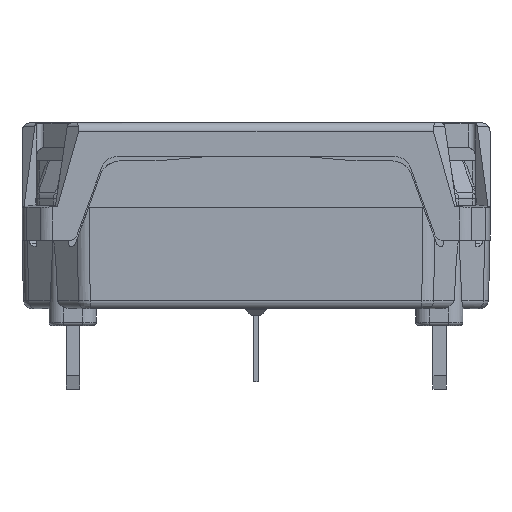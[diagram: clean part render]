
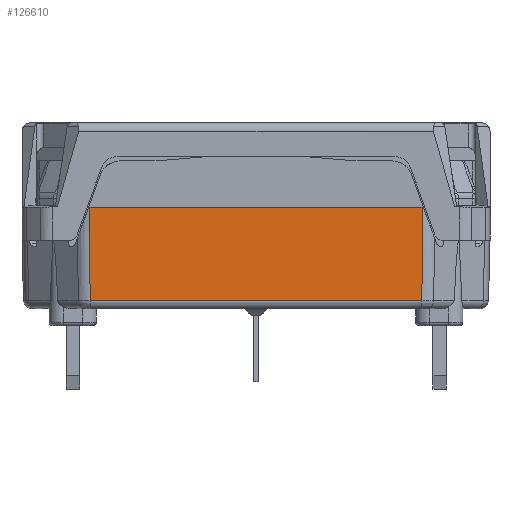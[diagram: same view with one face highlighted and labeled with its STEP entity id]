
A CAD part, front view. The second image highlights one B-rep face of the part: STEP entity #126610.
In plain terms, the highlighted planar face has unit normal (0, -1, -0.018) as drawn and (0, -1, 0.017) by its records, which use the part's own axes.
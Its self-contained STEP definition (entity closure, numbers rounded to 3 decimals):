
#15280=CARTESIAN_POINT('',(-4.488,-18.984,
-4.85));
#15290=VERTEX_POINT('',#15280);
#15320=CARTESIAN_POINT('',(15.228,-18.984,-4.85
));
#15330=DIRECTION('',(-1.,0.,0.));
#15340=VECTOR('',#15330,1.);
#15350=LINE('',#15320,#15340);
#15360=CARTESIAN_POINT('',(15.228,-18.984,
-4.85));
#15370=VERTEX_POINT('',#15360);
#15380=EDGE_CURVE('',#15370,#15290,#15350,.T.);
#125830=CARTESIAN_POINT('',(15.188,-18.888,
0.659));
#125840=VERTEX_POINT('',#125830);
#126210=CARTESIAN_POINT('',(15.228,-18.984,
-4.85));
#126220=DIRECTION('',(-0.007,0.017,
1.));
#126230=VECTOR('',#126220,1.);
#126240=LINE('',#126210,#126230);
#126250=EDGE_CURVE('',#15370,#125840,#126240,.T.);
#126380=CARTESIAN_POINT('',(15.736,-18.987,
-5.003));
#126390=DIRECTION('',(0.,-1.,0.017));
#126400=DIRECTION('',(0.,0.017,1.));
#126410=AXIS2_PLACEMENT_3D('',#126380,#126390,#126400);
#126420=PLANE('',#126410);
#126430=ORIENTED_EDGE('',*,*,#126250,.T.);
#126440=ORIENTED_EDGE('',*,*,#15380,.F.);
#126450=CARTESIAN_POINT('',(-4.448,-18.888,
0.659));
#126460=DIRECTION('',(-0.007,-0.017,
-1.));
#126470=VECTOR('',#126460,1.);
#126480=LINE('',#126450,#126470);
#126490=CARTESIAN_POINT('',(-4.448,-18.888,
0.659));
#126500=VERTEX_POINT('',#126490);
#126510=EDGE_CURVE('',#126500,#15290,#126480,.T.);
#126520=ORIENTED_EDGE('',*,*,#126510,.T.);
#126530=CARTESIAN_POINT('',(-4.448,-18.888,
0.659));
#126540=DIRECTION('',(1.,0.,0.));
#126550=VECTOR('',#126540,1.);
#126560=LINE('',#126530,#126550);
#126570=EDGE_CURVE('',#126500,#125840,#126560,.T.);
#126580=ORIENTED_EDGE('',*,*,#126570,.F.);
#126590=EDGE_LOOP('',(#126580,#126520,#126440,#126430));
#126600=FACE_OUTER_BOUND('',#126590,.T.);
#126610=ADVANCED_FACE('',(#126600),#126420,.T.);
